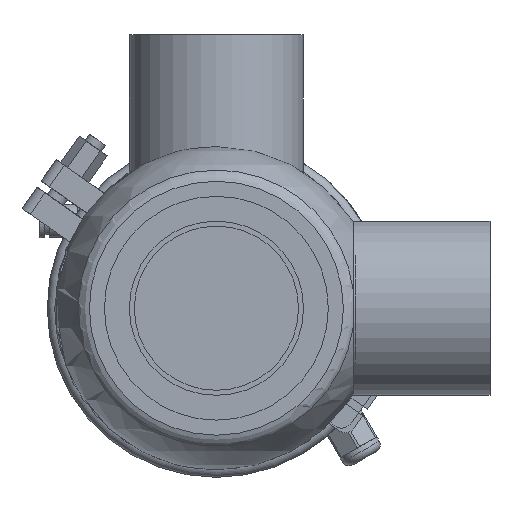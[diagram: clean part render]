
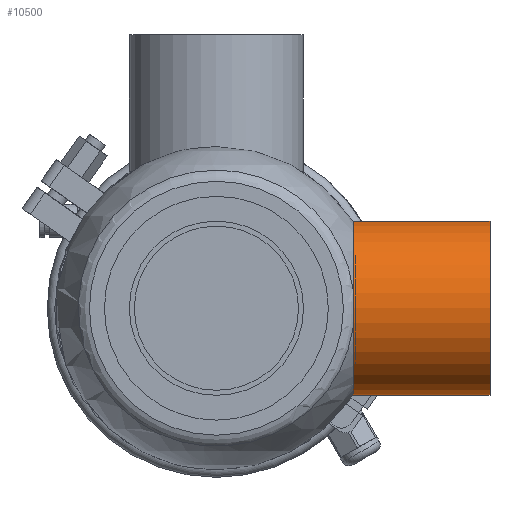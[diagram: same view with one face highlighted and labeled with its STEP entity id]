
A CAD part, front view. The second image highlights one B-rep face of the part: STEP entity #10500.
In plain terms, the highlighted cylindrical face has radius 35 mm (diameter 70 mm), a full revolution.
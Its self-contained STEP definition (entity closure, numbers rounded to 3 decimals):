
#1267 = EDGE_LOOP ( 'NONE', ( #8225 ) ) ;
#4270 = CARTESIAN_POINT ( 'NONE',  ( 55., 0., 0. ) ) ;
#4965 = DIRECTION ( 'NONE',  ( -1., 0., 0. ) ) ;
#6033 = FACE_OUTER_BOUND ( 'NONE', #1267, .T. ) ;
#8225 = ORIENTED_EDGE ( 'NONE', *, *, #45647, .T. ) ;
#8552 = DIRECTION ( 'NONE',  ( -1., 0., 0. ) ) ;
#9115 = CIRCLE ( 'NONE', #59612, 35. ) ;
#9244 = DIRECTION ( 'NONE',  ( 0., 0., 1. ) ) ;
#10500 = ADVANCED_FACE ( 'NONE', ( #6033, #10656 ), #24909, .T. ) ;
#10656 = FACE_OUTER_BOUND ( 'NONE', #56321, .T. ) ;
#10971 = DIRECTION ( 'NONE',  ( -1., 0., 0. ) ) ;
#15783 = CIRCLE ( 'NONE', #48359, 35. ) ;
#17749 = DIRECTION ( 'NONE',  ( 0., 0., 1. ) ) ;
#19883 = VERTEX_POINT ( 'NONE', #53368 ) ;
#23145 = DIRECTION ( 'NONE',  ( 0., 0., 1. ) ) ;
#24909 = CYLINDRICAL_SURFACE ( 'NONE', #58873, 35. ) ;
#43955 = ORIENTED_EDGE ( 'NONE', *, *, #49274, .F. ) ;
#45647 = EDGE_CURVE ( 'NONE', #19883, #19883, #15783, .T. ) ;
#48359 = AXIS2_PLACEMENT_3D ( 'NONE', #51733, #4965, #9244 ) ;
#49274 = EDGE_CURVE ( 'NONE', #59804, #59804, #9115, .T. ) ;
#49603 = CARTESIAN_POINT ( 'NONE',  ( 55., 0., 35. ) ) ;
#51733 = CARTESIAN_POINT ( 'NONE',  ( 110., 0., 0. ) ) ;
#53368 = CARTESIAN_POINT ( 'NONE',  ( 110., 0., 35. ) ) ;
#53431 = CARTESIAN_POINT ( 'NONE',  ( 0., 0., 0. ) ) ;
#56321 = EDGE_LOOP ( 'NONE', ( #43955 ) ) ;
#58873 = AXIS2_PLACEMENT_3D ( 'NONE', #53431, #10971, #17749 ) ;
#59612 = AXIS2_PLACEMENT_3D ( 'NONE', #4270, #8552, #23145 ) ;
#59804 = VERTEX_POINT ( 'NONE', #49603 ) ;
